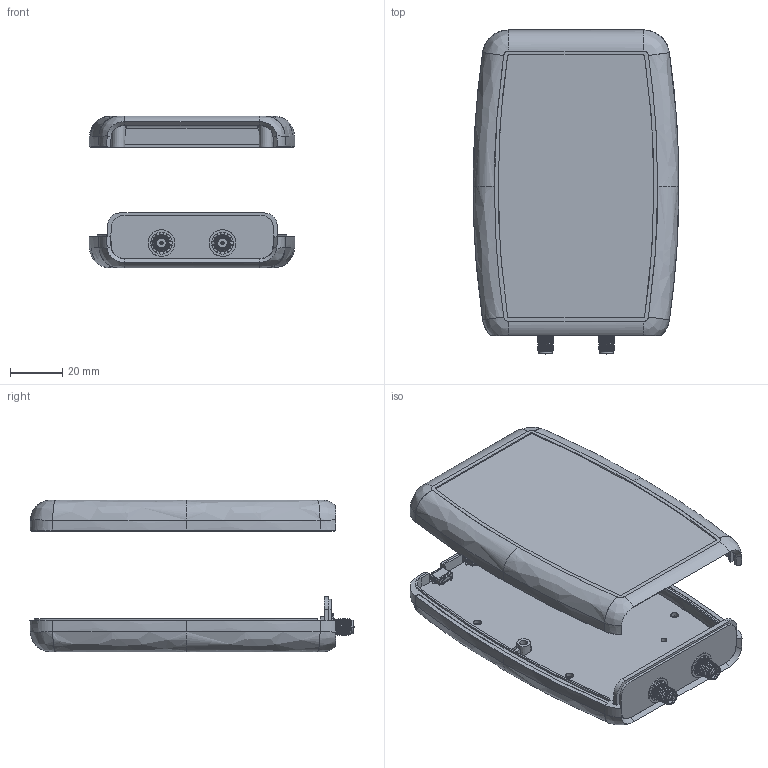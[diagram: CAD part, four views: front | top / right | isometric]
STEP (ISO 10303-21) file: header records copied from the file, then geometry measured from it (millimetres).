
FILE_DESCRIPTION (( 'STEP AP214' ), '1' );
FILE_NAME ('Pluto_revB.STEP', '2016-11-28T14:45:23', ( '' ), ( '' ), 'SwSTEP 2.0', 'SolidWorks 2015', '' );
FILE_SCHEMA (( 'AUTOMOTIVE_DESIGN' ));
Length unit declared in the file: millimetre
Products named in the file (13): 475900001; CNSMARAL687W375H171; 132289RP; BOARD1; 1553B BOTTOM GRIP; 1553B TOP GRIP; 1553B Front Panel; 1553B BOTTOM; 1553B TOP; Pluto_revB; PCB; COMPONENTS; CNMOLEX47590-0001
Assembly tree (14 placements, depth 5):
  Pluto_revB
    1553B TOP
    1553B BOTTOM
    1553B Front Panel
    1553B TOP GRIP
    1553B BOTTOM GRIP
    PCB
      BOARD1
      COMPONENTS
        CNSMARAL687W375H171  x2
          132289RP
        CNMOLEX47590-0001  x2
          475900001
Bounding box: 79 x 124.31 x 58.25 mm (x, y, z)
Volume: 74295.7 mm3; surface area: 80179.7 mm2
Topology: 10 solids, 22 shells, 1776 faces, 4790 edges, 3083 vertices
Faces by surface type: plane 959, cylinder 439, bspline 290, cone 84, torus 4
Entity records: 58502 total; most frequent: CARTESIAN_POINT 27642, ORIENTED_EDGE 6018, DIRECTION 4412, EDGE_CURVE 3015, VERTEX_POINT 1938, LINE 1778, VECTOR 1778, AXIS2_PLACEMENT_3D 1317
